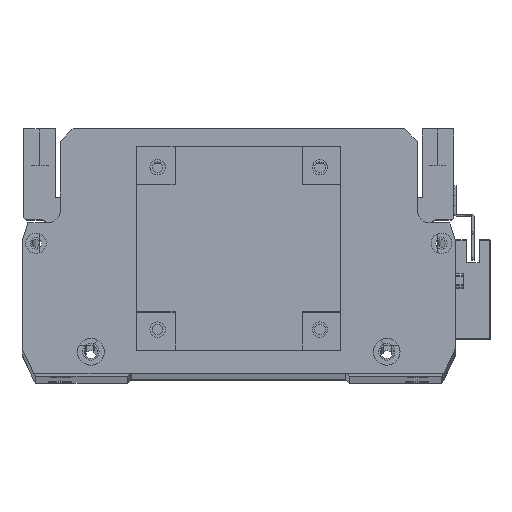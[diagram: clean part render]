
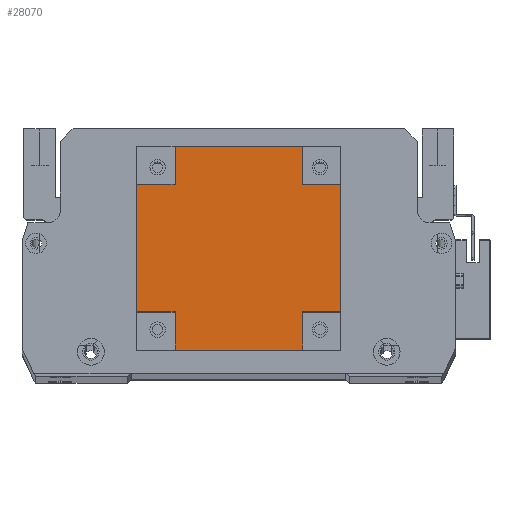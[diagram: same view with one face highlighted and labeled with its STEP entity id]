
A CAD part, top view. The second image highlights one B-rep face of the part: STEP entity #28070.
In plain terms, the highlighted planar face has unit normal (0, 0, 1).
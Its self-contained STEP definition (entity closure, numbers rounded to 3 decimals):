
#69 = VERTEX_POINT ( 'NONE', #19746 ) ;
#357 = CARTESIAN_POINT ( 'NONE',  ( 80., 0., 101.5 ) ) ;
#574 = DIRECTION ( 'NONE',  ( 0., 1., 0. ) ) ;
#789 = DIRECTION ( 'NONE',  ( -1., 0., 0. ) ) ;
#1489 = EDGE_CURVE ( 'NONE', #8314, #24513, #19606, .T. ) ;
#1767 = CARTESIAN_POINT ( 'NONE',  ( 80., 65., 101.5 ) ) ;
#2239 = EDGE_LOOP ( 'NONE', ( #27789, #23839, #8913, #16935, #5880, #14557, #20465, #10906, #7670, #3862, #14138, #3700 ) ) ;
#2303 = VECTOR ( 'NONE', #5165, 1000. ) ;
#2436 = DIRECTION ( 'NONE',  ( 0., -1., 0. ) ) ;
#2505 = CARTESIAN_POINT ( 'NONE',  ( 15., 65., 101.5 ) ) ;
#3011 = EDGE_CURVE ( 'NONE', #3701, #69, #19157, .T. ) ;
#3121 = CARTESIAN_POINT ( 'NONE',  ( 80., 15., 101.5 ) ) ;
#3700 = ORIENTED_EDGE ( 'NONE', *, *, #28217, .F. ) ;
#3701 = VERTEX_POINT ( 'NONE', #3121 ) ;
#3862 = ORIENTED_EDGE ( 'NONE', *, *, #3948, .T. ) ;
#3948 = EDGE_CURVE ( 'NONE', #3701, #24513, #27865, .T. ) ;
#4480 = EDGE_CURVE ( 'NONE', #69, #25039, #21528, .T. ) ;
#5165 = DIRECTION ( 'NONE',  ( 0., 1., 0. ) ) ;
#5880 = ORIENTED_EDGE ( 'NONE', *, *, #7400, .F. ) ;
#5921 = EDGE_CURVE ( 'NONE', #19058, #17257, #23455, .T. ) ;
#5996 = DIRECTION ( 'NONE',  ( 1., 0., 0. ) ) ;
#6286 = LINE ( 'NONE', #10404, #22974 ) ;
#6456 = CARTESIAN_POINT ( 'NONE',  ( 0., 80., 101.5 ) ) ;
#6599 = CARTESIAN_POINT ( 'NONE',  ( 0., 65., 101.5 ) ) ;
#7055 = AXIS2_PLACEMENT_3D ( 'NONE', #9464, #11712, #26817 ) ;
#7400 = EDGE_CURVE ( 'NONE', #17257, #17178, #20712, .T. ) ;
#7670 = ORIENTED_EDGE ( 'NONE', *, *, #3011, .F. ) ;
#7920 = CARTESIAN_POINT ( 'NONE',  ( 0., 0., 101.5 ) ) ;
#8176 = CARTESIAN_POINT ( 'NONE',  ( 65., 80., 101.5 ) ) ;
#8314 = VERTEX_POINT ( 'NONE', #24075 ) ;
#8475 = VECTOR ( 'NONE', #21763, 1000. ) ;
#8655 = VECTOR ( 'NONE', #14728, 1000. ) ;
#8789 = CARTESIAN_POINT ( 'NONE',  ( 15., 0., 101.5 ) ) ;
#8841 = VERTEX_POINT ( 'NONE', #8176 ) ;
#8859 = DIRECTION ( 'NONE',  ( 1., 0., 0. ) ) ;
#8901 = EDGE_CURVE ( 'NONE', #16203, #9004, #21332, .T. ) ;
#8913 = ORIENTED_EDGE ( 'NONE', *, *, #8901, .F. ) ;
#9004 = VERTEX_POINT ( 'NONE', #2505 ) ;
#9464 = CARTESIAN_POINT ( 'NONE',  ( 0., 0., 101.5 ) ) ;
#10404 = CARTESIAN_POINT ( 'NONE',  ( 65., 80., 101.5 ) ) ;
#10429 = VECTOR ( 'NONE', #8859, 1000. ) ;
#10906 = ORIENTED_EDGE ( 'NONE', *, *, #4480, .F. ) ;
#11712 = DIRECTION ( 'NONE',  ( 0., 0., -1. ) ) ;
#11779 = CARTESIAN_POINT ( 'NONE',  ( 0., 15., 101.5 ) ) ;
#11806 = EDGE_CURVE ( 'NONE', #9004, #15478, #19675, .T. ) ;
#12203 = DIRECTION ( 'NONE',  ( 0., -1., 0. ) ) ;
#12547 = LINE ( 'NONE', #7920, #17735 ) ;
#13953 = DIRECTION ( 'NONE',  ( -1., 0., 0. ) ) ;
#14035 = CARTESIAN_POINT ( 'NONE',  ( 80., 15., 101.5 ) ) ;
#14138 = ORIENTED_EDGE ( 'NONE', *, *, #1489, .F. ) ;
#14313 = VECTOR ( 'NONE', #5996, 1000. ) ;
#14557 = ORIENTED_EDGE ( 'NONE', *, *, #5921, .F. ) ;
#14728 = DIRECTION ( 'NONE',  ( 1., 0., 0. ) ) ;
#14855 = FACE_OUTER_BOUND ( 'NONE', #2239, .T. ) ;
#15478 = VERTEX_POINT ( 'NONE', #27132 ) ;
#15624 = EDGE_CURVE ( 'NONE', #19058, #25039, #20836, .T. ) ;
#15710 = VECTOR ( 'NONE', #2436, 1000. ) ;
#16040 = CARTESIAN_POINT ( 'NONE',  ( 15., 0., 101.5 ) ) ;
#16203 = VERTEX_POINT ( 'NONE', #18780 ) ;
#16462 = DIRECTION ( 'NONE',  ( 0., 1., 0. ) ) ;
#16935 = ORIENTED_EDGE ( 'NONE', *, *, #25789, .T. ) ;
#17087 = CARTESIAN_POINT ( 'NONE',  ( 0., 15., 101.5 ) ) ;
#17178 = VERTEX_POINT ( 'NONE', #17087 ) ;
#17257 = VERTEX_POINT ( 'NONE', #17292 ) ;
#17292 = CARTESIAN_POINT ( 'NONE',  ( 15., 15., 101.5 ) ) ;
#17716 = EDGE_CURVE ( 'NONE', #8841, #15478, #26417, .T. ) ;
#17735 = VECTOR ( 'NONE', #12203, 1000. ) ;
#17790 = CARTESIAN_POINT ( 'NONE',  ( 65., 0., 101.5 ) ) ;
#18713 = VECTOR ( 'NONE', #574, 1000. ) ;
#18780 = CARTESIAN_POINT ( 'NONE',  ( 0., 65., 101.5 ) ) ;
#19058 = VERTEX_POINT ( 'NONE', #8789 ) ;
#19157 = LINE ( 'NONE', #14035, #24176 ) ;
#19201 = DIRECTION ( 'NONE',  ( 0., -1., 0. ) ) ;
#19309 = CARTESIAN_POINT ( 'NONE',  ( 65., 0., 101.5 ) ) ;
#19606 = LINE ( 'NONE', #27916, #8655 ) ;
#19675 = LINE ( 'NONE', #20288, #18713 ) ;
#19746 = CARTESIAN_POINT ( 'NONE',  ( 65., 15., 101.5 ) ) ;
#20288 = CARTESIAN_POINT ( 'NONE',  ( 15., 80., 101.5 ) ) ;
#20465 = ORIENTED_EDGE ( 'NONE', *, *, #15624, .T. ) ;
#20712 = LINE ( 'NONE', #11779, #26371 ) ;
#20836 = LINE ( 'NONE', #27696, #14313 ) ;
#21332 = LINE ( 'NONE', #6599, #10429 ) ;
#21528 = LINE ( 'NONE', #17790, #15710 ) ;
#21763 = DIRECTION ( 'NONE',  ( -1., 0., 0. ) ) ;
#22200 = VECTOR ( 'NONE', #16462, 1000. ) ;
#22426 = PLANE ( 'NONE',  #7055 ) ;
#22974 = VECTOR ( 'NONE', #19201, 1000. ) ;
#23455 = LINE ( 'NONE', #16040, #2303 ) ;
#23839 = ORIENTED_EDGE ( 'NONE', *, *, #11806, .F. ) ;
#24075 = CARTESIAN_POINT ( 'NONE',  ( 65., 65., 101.5 ) ) ;
#24176 = VECTOR ( 'NONE', #13953, 1000. ) ;
#24513 = VERTEX_POINT ( 'NONE', #1767 ) ;
#25039 = VERTEX_POINT ( 'NONE', #19309 ) ;
#25789 = EDGE_CURVE ( 'NONE', #16203, #17178, #12547, .T. ) ;
#26371 = VECTOR ( 'NONE', #789, 1000. ) ;
#26417 = LINE ( 'NONE', #6456, #8475 ) ;
#26817 = DIRECTION ( 'NONE',  ( -1., 0., 0. ) ) ;
#27132 = CARTESIAN_POINT ( 'NONE',  ( 15., 80., 101.5 ) ) ;
#27696 = CARTESIAN_POINT ( 'NONE',  ( 0., 0., 101.5 ) ) ;
#27789 = ORIENTED_EDGE ( 'NONE', *, *, #17716, .T. ) ;
#27865 = LINE ( 'NONE', #357, #22200 ) ;
#27916 = CARTESIAN_POINT ( 'NONE',  ( 65., 65., 101.5 ) ) ;
#28070 = ADVANCED_FACE ( 'NONE', ( #14855 ), #22426, .F. ) ;
#28217 = EDGE_CURVE ( 'NONE', #8841, #8314, #6286, .T. ) ;
